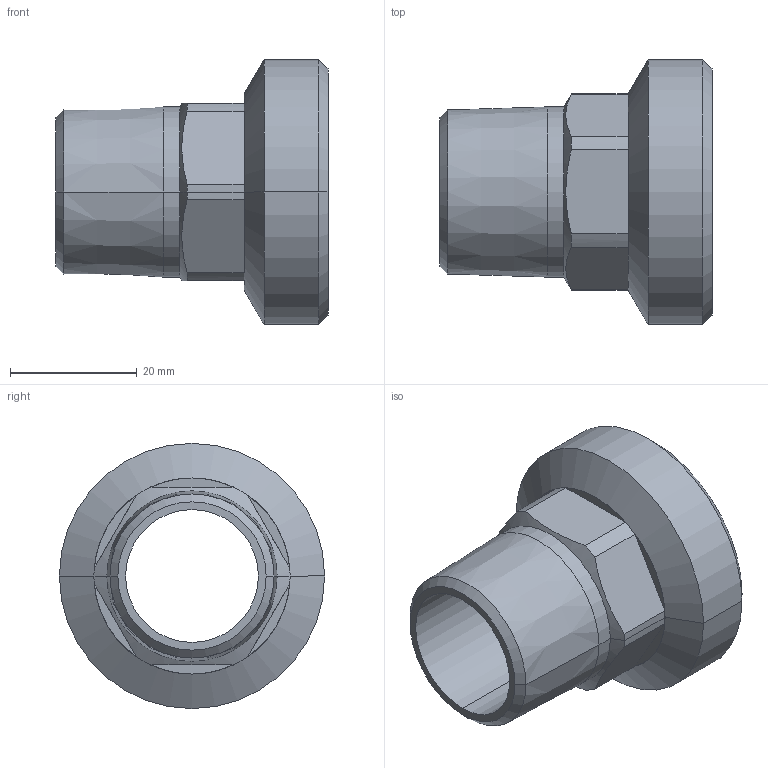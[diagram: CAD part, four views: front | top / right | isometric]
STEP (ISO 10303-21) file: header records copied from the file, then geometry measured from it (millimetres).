
FILE_DESCRIPTION((''),'2;1');
FILE_NAME('G:\BIR\Pajchrowski\projekty\8000 models\4376g\4376g STEP\14376_34-114.stp','2006-04-28T11:34:16',('pajchrowski'),(''),'Autodesk Inventor 8','Autodesk Inventor 8','');
FILE_SCHEMA(('AUTOMOTIVE_DESIGN { 1 0 10303 214 1 1 1 1 }'));
Length unit declared in the file: millimetre
Products named in the file (1): 14376_34-114
Bounding box: 43 x 41.91 x 41.91 mm (x, y, z)
Volume: 15993.7 mm3; surface area: 8850.4 mm2
Topology: 1 solids, 1 shells, 40 faces, 94 edges, 56 vertices
Faces by surface type: cone 14, plane 14, cylinder 12
Entity records: 1163 total; most frequent: DIRECTION 214, CARTESIAN_POINT 203, ORIENTED_EDGE 188, EDGE_CURVE 94, AXIS2_PLACEMENT_3D 85, VERTEX_POINT 56, VECTOR 44, LINE 44
